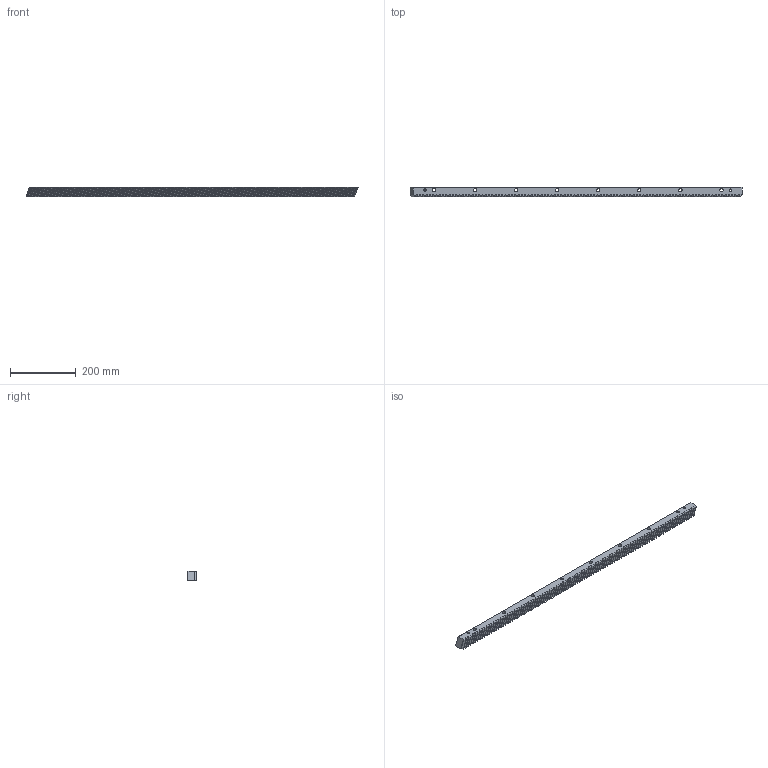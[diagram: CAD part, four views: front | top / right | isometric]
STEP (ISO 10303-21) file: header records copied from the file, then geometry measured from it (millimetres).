
FILE_DESCRIPTION(/* description */ (''),/* implementation_level */ '2;1');
FILE_NAME(/* name */ 'BL-1HR29R030100H.ipt',/* time_stamp */ '2019-06-18T14:26:56+02:00',/* author */ ('VĂ©gh MĂˇtĂ©'),/* organization */ ('Bearing Kft'),/* preprocessor_version */ 'ST-DEVELOPER v16.7',/* originating_system */ 'DEX',/* authorisation */ $);
FILE_SCHEMA (('AUTOMOTIVE_DESIGN {1 0 10303 214 3 1 1}'));
Length unit declared in the file: millimetre
Products named in the file (1): BL-1HR29R030100H.ipt
Bounding box: 1010.64 x 29 x 30 mm (x, y, z)
Volume: 743368.6 mm3; surface area: 150572.9 mm2
Topology: 1 solids, 1 shells, 972 faces, 2715 edges, 1810 vertices
Faces by surface type: plane 671, bspline 281, cylinder 20
Full cylindrical faces by diameter (mm): 7.7 x2, 10 x8, 15 x8
Entity records: 43579 total; most frequent: CARTESIAN_POINT 13109, ORIENTED_EDGE 5374, DIRECTION 3949, EDGE_CURVE 2687, LINE 2085, VECTOR 2085, VERTEX_POINT 1810, EDGE_LOOP 1085
